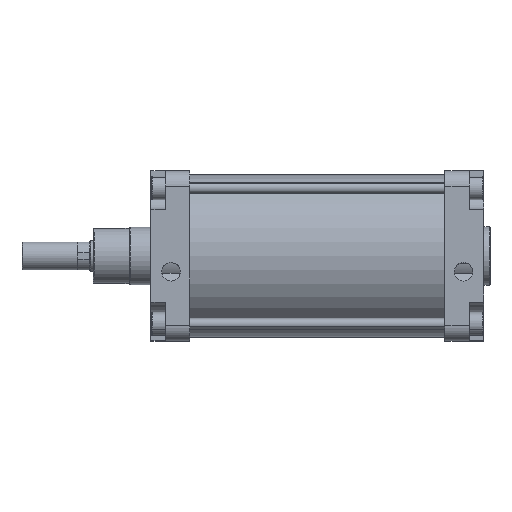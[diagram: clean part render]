
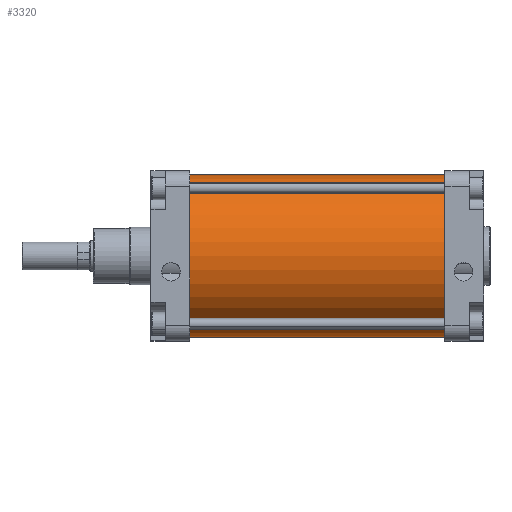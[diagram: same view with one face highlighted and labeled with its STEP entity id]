
A CAD part, top view. The second image highlights one B-rep face of the part: STEP entity #3320.
In plain terms, the highlighted cylindrical face has radius 105 mm (diameter 210 mm), a partial arc.
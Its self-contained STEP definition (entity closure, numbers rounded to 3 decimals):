
#3281=CARTESIAN_POINT('Axis2P3D Location',(164.5,0.,0.)) ;
#3286=CARTESIAN_POINT('Line Origine',(164.5,105.,0.)) ;
#3290=CARTESIAN_POINT('Vertex',(0.,105.,0.)) ;
#3292=CARTESIAN_POINT('Vertex',(329.,105.,0.)) ;
#3295=CARTESIAN_POINT('Axis2P3D Location',(0.,0.,0.)) ;
#3299=CARTESIAN_POINT('Vertex',(0.,-105.,0.)) ;
#3302=CARTESIAN_POINT('Line Origine',(164.5,-105.,0.)) ;
#3306=CARTESIAN_POINT('Vertex',(329.,-105.,0.)) ;
#3309=CARTESIAN_POINT('Axis2P3D Location',(329.,0.,0.)) ;
#3282=DIRECTION('Axis2P3D Direction',(1.,0.,0.)) ;
#3283=DIRECTION('Axis2P3D XDirection',(0.,1.,0.)) ;
#3287=DIRECTION('Vector Direction',(1.,0.,0.)) ;
#3296=DIRECTION('Axis2P3D Direction',(1.,0.,0.)) ;
#3303=DIRECTION('Vector Direction',(1.,0.,0.)) ;
#3310=DIRECTION('Axis2P3D Direction',(1.,0.,0.)) ;
#3284=AXIS2_PLACEMENT_3D('Cylinder Axis2P3D',#3281,#3282,#3283) ;
#3297=AXIS2_PLACEMENT_3D('Circle Axis2P3D',#3295,#3296,$) ;
#3311=AXIS2_PLACEMENT_3D('Circle Axis2P3D',#3309,#3310,$) ;
#3315=ORIENTED_EDGE('',*,*,#3294,.F.) ;
#3316=ORIENTED_EDGE('',*,*,#3301,.T.) ;
#3317=ORIENTED_EDGE('',*,*,#3308,.T.) ;
#3318=ORIENTED_EDGE('',*,*,#3313,.F.) ;
#3288=VECTOR('Line Direction',#3287,1.) ;
#3304=VECTOR('Line Direction',#3303,1.) ;
#3320=ADVANCED_FACE('PartBody',(#3319),#3285,.T.) ;
#3298=CIRCLE('generated circle',#3297,105.) ;
#3312=CIRCLE('generated circle',#3311,105.) ;
#3285=CYLINDRICAL_SURFACE('generated cylinder',#3284,105.) ;
#3294=EDGE_CURVE('',#3291,#3293,#3289,.T.) ;
#3301=EDGE_CURVE('',#3291,#3300,#3298,.T.) ;
#3308=EDGE_CURVE('',#3300,#3307,#3305,.T.) ;
#3313=EDGE_CURVE('',#3293,#3307,#3312,.T.) ;
#3314=EDGE_LOOP('',(#3315,#3316,#3317,#3318)) ;
#3319=FACE_OUTER_BOUND('',#3314,.T.) ;
#3289=LINE('Line',#3286,#3288) ;
#3305=LINE('Line',#3302,#3304) ;
#3291=VERTEX_POINT('',#3290) ;
#3293=VERTEX_POINT('',#3292) ;
#3300=VERTEX_POINT('',#3299) ;
#3307=VERTEX_POINT('',#3306) ;
